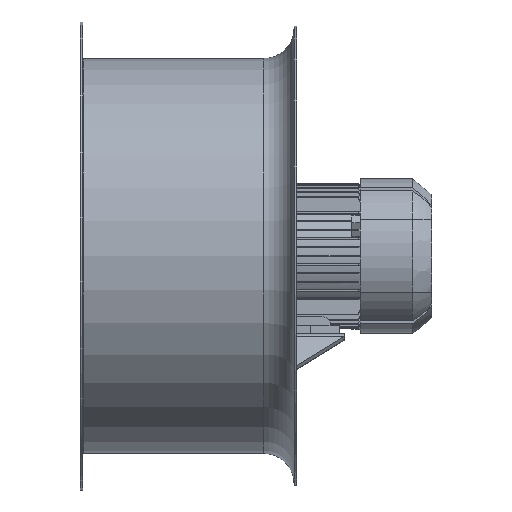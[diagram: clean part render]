
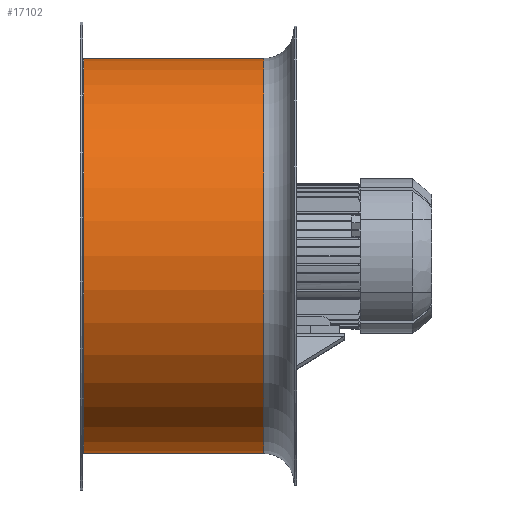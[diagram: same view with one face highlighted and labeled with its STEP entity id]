
A CAD part, top view. The second image highlights one B-rep face of the part: STEP entity #17102.
In plain terms, the highlighted cylindrical face has radius 228 mm (diameter 456 mm), a partial arc.
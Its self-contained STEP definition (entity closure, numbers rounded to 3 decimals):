
#624 = CARTESIAN_POINT ( 'NONE',  ( -206., 0., 0. ) ) ;
#1749 = LINE ( 'NONE', #22116, #28520 ) ;
#2096 = CIRCLE ( 'NONE', #3603, 228. ) ;
#3603 = AXIS2_PLACEMENT_3D ( 'NONE', #21422, #37102, #9448 ) ;
#6437 = CARTESIAN_POINT ( 'NONE',  ( 1.95, -228., 0. ) ) ;
#6589 = LINE ( 'NONE', #14080, #11465 ) ;
#7241 = ORIENTED_EDGE ( 'NONE', *, *, #35668, .F. ) ;
#9448 = DIRECTION ( 'NONE',  ( 0., 1., 0. ) ) ;
#11465 = VECTOR ( 'NONE', #32748, 1000. ) ;
#11726 = CARTESIAN_POINT ( 'NONE',  ( -206., 228., 0. ) ) ;
#12222 = VERTEX_POINT ( 'NONE', #6437 ) ;
#12607 = EDGE_CURVE ( 'NONE', #25304, #12222, #1749, .T. ) ;
#14080 = CARTESIAN_POINT ( 'NONE',  ( -214., 228., 0. ) ) ;
#14598 = DIRECTION ( 'NONE',  ( 1., 0., 0. ) ) ;
#15018 = DIRECTION ( 'NONE',  ( 0., 1., 0. ) ) ;
#17102 = ADVANCED_FACE ( 'NONE', ( #27758 ), #17430, .T. ) ;
#17430 = CYLINDRICAL_SURFACE ( 'NONE', #40116, 228. ) ;
#18911 = ORIENTED_EDGE ( 'NONE', *, *, #23889, .T. ) ;
#19411 = VERTEX_POINT ( 'NONE', #25240 ) ;
#19734 = DIRECTION ( 'NONE',  ( 0., 1., 0. ) ) ;
#21422 = CARTESIAN_POINT ( 'NONE',  ( 1.95, 0., 0. ) ) ;
#22116 = CARTESIAN_POINT ( 'NONE',  ( -214., -228., 0. ) ) ;
#22334 = DIRECTION ( 'NONE',  ( 1., 0., 0. ) ) ;
#22921 = VERTEX_POINT ( 'NONE', #11726 ) ;
#23889 = EDGE_CURVE ( 'NONE', #22921, #25304, #28698, .T. ) ;
#25240 = CARTESIAN_POINT ( 'NONE',  ( 1.95, 228., 0. ) ) ;
#25304 = VERTEX_POINT ( 'NONE', #33671 ) ;
#26206 = AXIS2_PLACEMENT_3D ( 'NONE', #624, #22334, #19734 ) ;
#27758 = FACE_OUTER_BOUND ( 'NONE', #37299, .T. ) ;
#28520 = VECTOR ( 'NONE', #34788, 1000. ) ;
#28698 = CIRCLE ( 'NONE', #26206, 228. ) ;
#29617 = CARTESIAN_POINT ( 'NONE',  ( -214., 0., 0. ) ) ;
#32748 = DIRECTION ( 'NONE',  ( 1., 0., 0. ) ) ;
#33556 = ORIENTED_EDGE ( 'NONE', *, *, #38684, .F. ) ;
#33671 = CARTESIAN_POINT ( 'NONE',  ( -206., -228., 0. ) ) ;
#34788 = DIRECTION ( 'NONE',  ( 1., 0., 0. ) ) ;
#35668 = EDGE_CURVE ( 'NONE', #22921, #19411, #6589, .T. ) ;
#37102 = DIRECTION ( 'NONE',  ( 1., 0., 0. ) ) ;
#37292 = ORIENTED_EDGE ( 'NONE', *, *, #12607, .T. ) ;
#37299 = EDGE_LOOP ( 'NONE', ( #18911, #37292, #33556, #7241 ) ) ;
#38684 = EDGE_CURVE ( 'NONE', #19411, #12222, #2096, .T. ) ;
#40116 = AXIS2_PLACEMENT_3D ( 'NONE', #29617, #14598, #15018 ) ;
